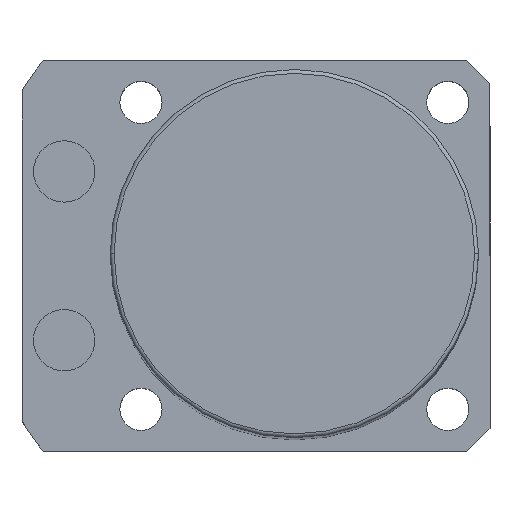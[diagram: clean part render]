
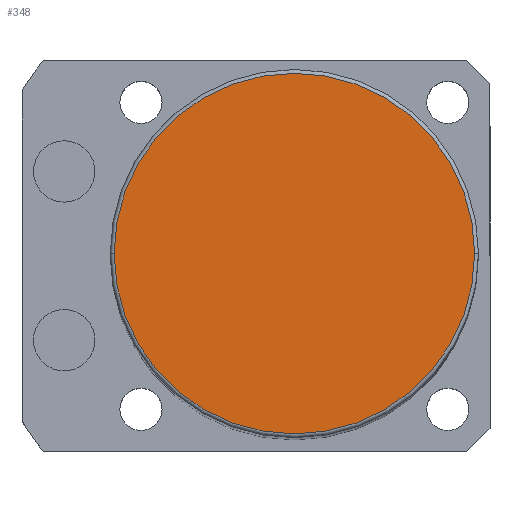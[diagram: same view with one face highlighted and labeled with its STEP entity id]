
A CAD part, top view. The second image highlights one B-rep face of the part: STEP entity #348.
In plain terms, the highlighted planar face has unit normal (0, 0, 1).
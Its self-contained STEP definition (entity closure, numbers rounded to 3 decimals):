
#106 = FACE_OUTER_BOUND ( 'NONE', #1974, .T. ) ;
#212 = VERTEX_POINT ( 'NONE', #733 ) ;
#243 = EDGE_CURVE ( 'NONE', #212, #1757, #2373, .T. ) ;
#348 = ADVANCED_FACE ( 'NONE', ( #106 ), #863, .T. ) ;
#483 = DIRECTION ( 'NONE',  ( 1., 0., 0. ) ) ;
#511 = DIRECTION ( 'NONE',  ( 0., 0., 1. ) ) ;
#516 = CARTESIAN_POINT ( 'NONE',  ( 0., 0., 181. ) ) ;
#716 = CARTESIAN_POINT ( 'NONE',  ( 0., 0., 181. ) ) ;
#728 = DIRECTION ( 'NONE',  ( 1., 0., 0. ) ) ;
#733 = CARTESIAN_POINT ( 'NONE',  ( -23.5, 0., 181. ) ) ;
#863 = PLANE ( 'NONE',  #2493 ) ;
#877 = CIRCLE ( 'NONE', #1886, 23.5 ) ;
#890 = AXIS2_PLACEMENT_3D ( 'NONE', #516, #511, #728 ) ;
#987 = CARTESIAN_POINT ( 'NONE',  ( 0., 0., 181. ) ) ;
#1343 = DIRECTION ( 'NONE',  ( 0., 0., 1. ) ) ;
#1629 = DIRECTION ( 'NONE',  ( 1., 0., 0. ) ) ;
#1757 = VERTEX_POINT ( 'NONE', #2376 ) ;
#1801 = ORIENTED_EDGE ( 'NONE', *, *, #243, .T. ) ;
#1871 = DIRECTION ( 'NONE',  ( 0., 0., 1. ) ) ;
#1886 = AXIS2_PLACEMENT_3D ( 'NONE', #987, #1871, #1629 ) ;
#1974 = EDGE_LOOP ( 'NONE', ( #2558, #1801 ) ) ;
#2162 = EDGE_CURVE ( 'NONE', #1757, #212, #877, .T. ) ;
#2373 = CIRCLE ( 'NONE', #890, 23.5 ) ;
#2376 = CARTESIAN_POINT ( 'NONE',  ( 23.5, 0., 181. ) ) ;
#2493 = AXIS2_PLACEMENT_3D ( 'NONE', #716, #1343, #483 ) ;
#2558 = ORIENTED_EDGE ( 'NONE', *, *, #2162, .T. ) ;
